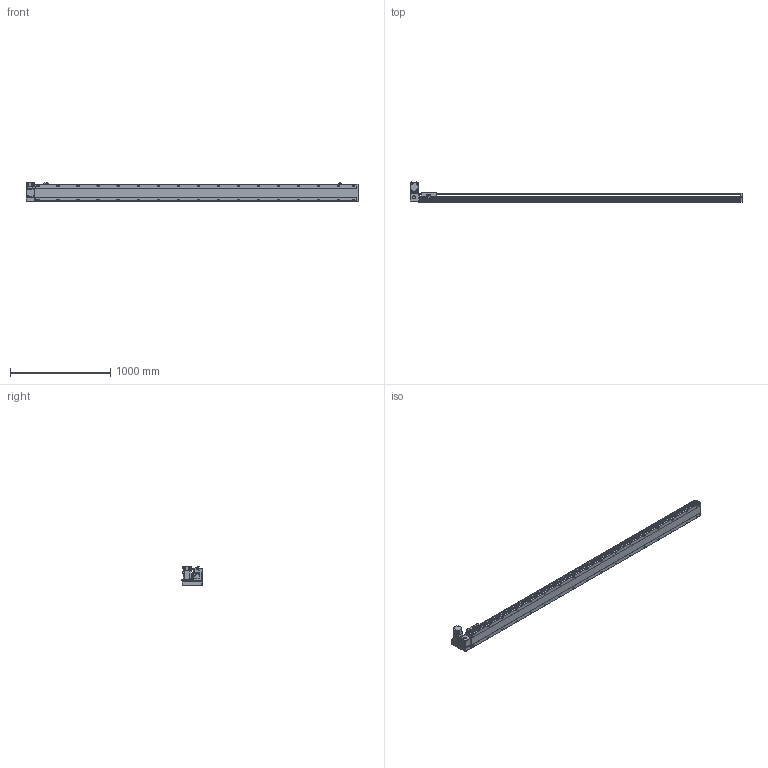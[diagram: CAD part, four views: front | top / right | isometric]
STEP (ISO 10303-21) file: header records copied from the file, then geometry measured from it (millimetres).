
FILE_DESCRIPTION(/* description */ ('STEP AP214'),/* implementation_level */ '2;1');
FILE_NAME(/* name */ 'PBS170-P40-S2950-LU-T75-C1-N(0)',/* time_stamp */ '2022-06-07T10:18:15+02:00',/* author */ ('License CC BY-ND 4.0'),/* organization */ ('CADENAS'),/* preprocessor_version */ 'ST-DEVELOPER v18.102',/* originating_system */ 'PARTsolutions',/* authorisation */ ' ');
FILE_SCHEMA (('AUTOMOTIVE_DESIGN {1 0 10303 214 3 1 1}'));
Length unit declared in the file: millimetre
Products named in the file (7): PBS170-P40-S2950-LU-T75-C1-N(0); PBS170_sensor; PBS170_plant; PBS170_sliser; T75-p1; PBS170T-LU_motors; PBS170-S2950()_body
Assembly tree (8 placements, depth 2):
  PBS170-P40-S2950-LU-T75-C1-N(0)
    PBS170_sensor  x3
    PBS170_plant
    PBS170_sliser
    T75-p1
    PBS170T-LU_motors
    PBS170-S2950()_body
Bounding box: 3313 x 206 x 197.3 mm (x, y, z)
Volume: 24885337.9 mm3; surface area: 3116293.2 mm2
Topology: 8 solids, 8 shells, 1226 faces, 3235 edges, 2108 vertices
Faces by surface type: plane 741, cylinder 411, cone 64, sphere 8, torus 2
Full cylindrical faces by diameter (mm): 3.242 x4, 4 x2, 4.4 x4, 4.5 x6, 4.917 x4, 6 x9, 6.647 x42, 7 x2, 7.5 x4, 8 x8, 8.5 x34, 10 x4, 10.5 x34, 11 x2, 30 x2, 40 x1, 70 x1
Entity records: 35240 total; most frequent: CARTESIAN_POINT 6721, DIRECTION 5930, ORIENTED_EDGE 5568, EDGE_CURVE 2784, AXIS2_PLACEMENT_3D 2107, VERTEX_POINT 1946, LINE 1716, VECTOR 1716
